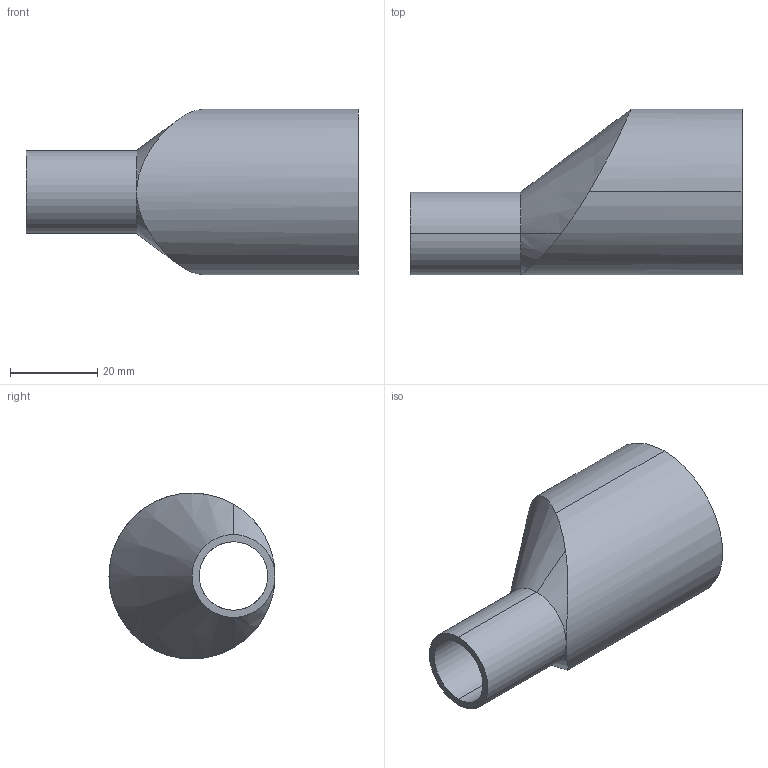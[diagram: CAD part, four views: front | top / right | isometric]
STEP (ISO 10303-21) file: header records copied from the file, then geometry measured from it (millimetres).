
FILE_DESCRIPTION (( 'STEP AP214' ), '1' );
FILE_NAME ('TE32SWW6L1.5x.75-...STEP', '2016-06-01T04:59:28', ( 'eran' ), ( '' ), 'SwSTEP 2.0', 'SolidWorks 2016', '' );
FILE_SCHEMA (( 'AUTOMOTIVE_DESIGN' ));
Length unit declared in the file: millimetre
Products named in the file (1): TE32SWW6L1.5x.75-..
Bounding box: 76.2 x 38.1 x 38.1 mm (x, y, z)
Volume: 26458.5 mm3; surface area: 12891.5 mm2
Topology: 1 solids, 1 shells, 16 faces, 36 edges, 22 vertices
Faces by surface type: cylinder 8, cone 5, plane 3
Entity records: 653 total; most frequent: CARTESIAN_POINT 260, DIRECTION 77, ORIENTED_EDGE 72, EDGE_CURVE 36, AXIS2_PLACEMENT_3D 33, VERTEX_POINT 22, EDGE_LOOP 18, ADVANCED_FACE 16
